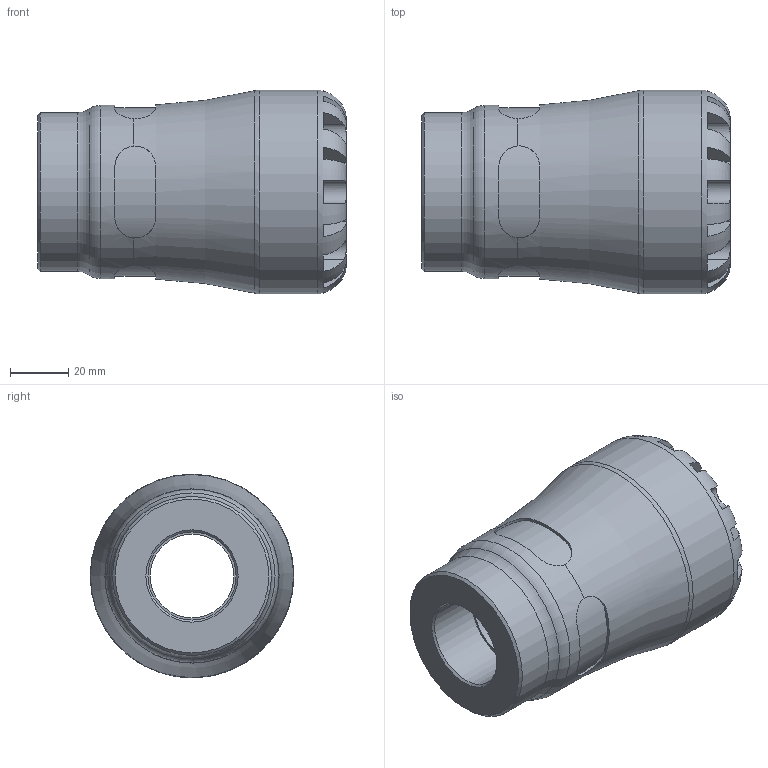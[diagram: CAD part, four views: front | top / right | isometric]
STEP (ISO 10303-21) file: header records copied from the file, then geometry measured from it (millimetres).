
FILE_DESCRIPTION(/* description */ ('PLASSON FEMALE INTEGRAL BRASS THREAD 40X1" SERIES 1'),/* implementation_level */ '2;1');
FILE_NAME(/* name */ 'C:\Dropbox\KIMPROJECTS-Inventor\99-16-3568-Processing\1073\107300040010_197300040010.ipt.stp',/* time_stamp */ '2017-01-22T11:35:36+02:00',/* author */ ('KIM'),/* organization */ (''),/* preprocessor_version */ 'ST-DEVELOPER v15.6',/* originating_system */ 'Autodesk Inventor 2015',/* authorisation */ '');
FILE_SCHEMA (('AUTOMOTIVE_DESIGN { 1 0 10303 214 3 1 1 }'));
Length unit declared in the file: millimetre
Products named in the file (1): 107300040010_197300040010
Bounding box: 106 x 70 x 70 mm (x, y, z)
Volume: 208159.6 mm3; surface area: 39395.1 mm2
Topology: 1 solids, 1 shells, 104 faces, 265 edges, 166 vertices
Faces by surface type: plane 61, cylinder 35, torus 5, cone 3
Full cylindrical faces by diameter (mm): 28.776 x1, 30.291 x1, 33.333 x1, 40 x1, 54.6 x1, 59.5 x1, 70 x1
Entity records: 3848 total; most frequent: CARTESIAN_POINT 1461, ORIENTED_EDGE 492, DIRECTION 478, EDGE_CURVE 246, AXIS2_PLACEMENT_3D 199, VERTEX_POINT 162, EDGE_LOOP 124, FACE_OUTER_BOUND 104
